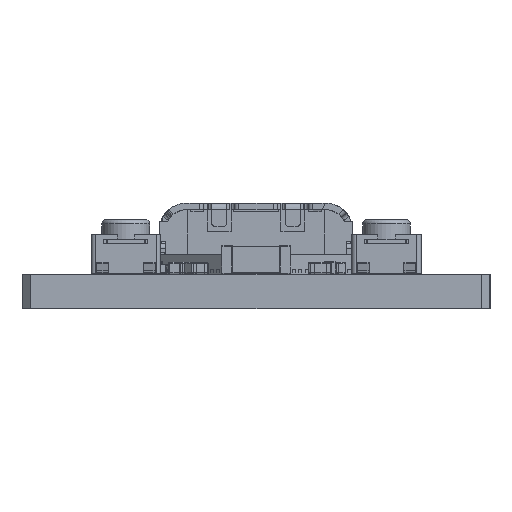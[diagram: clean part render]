
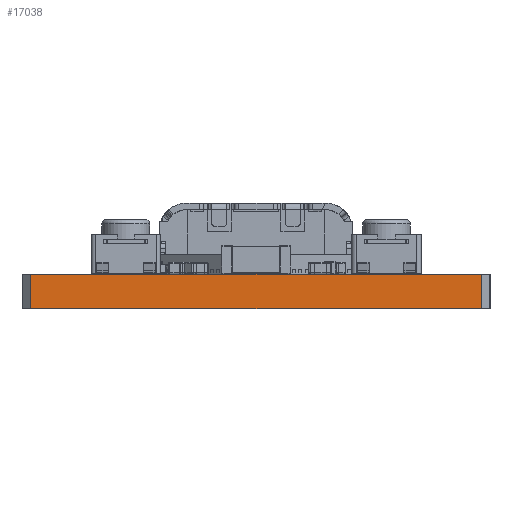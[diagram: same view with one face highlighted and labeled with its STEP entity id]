
A CAD part, left-side view. The second image highlights one B-rep face of the part: STEP entity #17038.
In plain terms, the highlighted planar face has unit normal (-1, 0, 0).
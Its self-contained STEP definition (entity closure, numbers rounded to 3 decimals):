
#17038 = ADVANCED_FACE('',(#17039),#17073,.F.);
#17039 = FACE_BOUND('',#17040,.F.);
#17040 = EDGE_LOOP('',(#17041,#17051,#17059,#17067));
#17041 = ORIENTED_EDGE('',*,*,#17042,.T.);
#17042 = EDGE_CURVE('',#17043,#17045,#17047,.T.);
#17043 = VERTEX_POINT('',#17044);
#17044 = CARTESIAN_POINT('',(0.,21.19,-1.604));
#17045 = VERTEX_POINT('',#17046);
#17046 = CARTESIAN_POINT('',(0.,21.19,0.));
#17047 = LINE('',#17048,#17049);
#17048 = CARTESIAN_POINT('',(0.,21.19,-1.604));
#17049 = VECTOR('',#17050,1.);
#17050 = DIRECTION('',(0.,0.,1.));
#17051 = ORIENTED_EDGE('',*,*,#17052,.T.);
#17052 = EDGE_CURVE('',#17045,#17053,#17055,.T.);
#17053 = VERTEX_POINT('',#17054);
#17054 = CARTESIAN_POINT('',(0.,0.4,0.));
#17055 = LINE('',#17056,#17057);
#17056 = CARTESIAN_POINT('',(0.,21.19,0.));
#17057 = VECTOR('',#17058,1.);
#17058 = DIRECTION('',(0.,-1.,0.));
#17059 = ORIENTED_EDGE('',*,*,#17060,.F.);
#17060 = EDGE_CURVE('',#17061,#17053,#17063,.T.);
#17061 = VERTEX_POINT('',#17062);
#17062 = CARTESIAN_POINT('',(0.,0.4,-1.604));
#17063 = LINE('',#17064,#17065);
#17064 = CARTESIAN_POINT('',(0.,0.4,-1.604));
#17065 = VECTOR('',#17066,1.);
#17066 = DIRECTION('',(0.,0.,1.));
#17067 = ORIENTED_EDGE('',*,*,#17068,.F.);
#17068 = EDGE_CURVE('',#17043,#17061,#17069,.T.);
#17069 = LINE('',#17070,#17071);
#17070 = CARTESIAN_POINT('',(0.,21.19,-1.604));
#17071 = VECTOR('',#17072,1.);
#17072 = DIRECTION('',(0.,-1.,0.));
#17073 = PLANE('',#17074);
#17074 = AXIS2_PLACEMENT_3D('',#17075,#17076,#17077);
#17075 = CARTESIAN_POINT('',(0.,21.19,-1.604));
#17076 = DIRECTION('',(1.,0.,-0.));
#17077 = DIRECTION('',(0.,-1.,0.));
